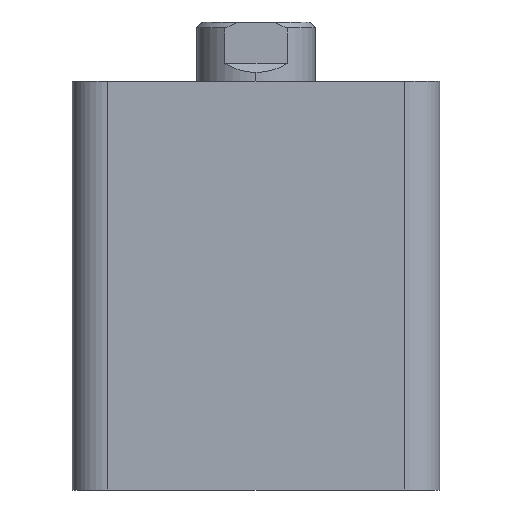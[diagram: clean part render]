
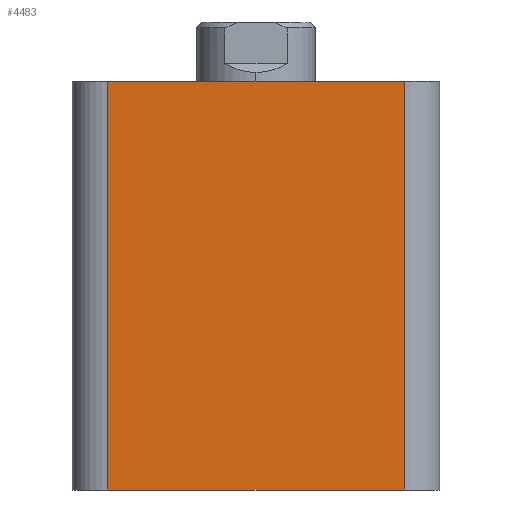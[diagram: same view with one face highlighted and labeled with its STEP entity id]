
A CAD part, left-side view. The second image highlights one B-rep face of the part: STEP entity #4483.
In plain terms, the highlighted planar face has unit normal (-1, 0, 0).
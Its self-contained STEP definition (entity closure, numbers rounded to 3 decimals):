
#230 = DIRECTION ( 'NONE',  ( 0., -1., 0. ) ) ;
#234 = CARTESIAN_POINT ( 'NONE',  ( -31., 31., 0. ) ) ;
#283 = DIRECTION ( 'NONE',  ( 0., -1., 0. ) ) ;
#293 = CARTESIAN_POINT ( 'NONE',  ( -31., 31., 69. ) ) ;
#624 = CARTESIAN_POINT ( 'NONE',  ( -31., -25., 0. ) ) ;
#625 = CARTESIAN_POINT ( 'NONE',  ( -31., 25., 0. ) ) ;
#938 = FACE_OUTER_BOUND ( 'NONE', #3267, .T. ) ;
#1412 = AXIS2_PLACEMENT_3D ( 'NONE', #4213, #4219, #4220 ) ;
#1588 = CARTESIAN_POINT ( 'NONE',  ( -31., 25., 69. ) ) ;
#1590 = CARTESIAN_POINT ( 'NONE',  ( -31., -25., 69. ) ) ;
#2122 = VECTOR ( 'NONE', #283, 1000. ) ;
#2252 = LINE ( 'NONE', #293, #2122 ) ;
#2559 = CARTESIAN_POINT ( 'NONE',  ( -31., -25., 69. ) ) ;
#2560 = DIRECTION ( 'NONE',  ( 0., 0., 1. ) ) ;
#2561 = DIRECTION ( 'NONE',  ( 0., 0., -1. ) ) ;
#2562 = CARTESIAN_POINT ( 'NONE',  ( -31., 25., 69. ) ) ;
#2605 = EDGE_CURVE ( 'NONE', #3488, #3369, #4603, .T. ) ;
#2608 = EDGE_CURVE ( 'NONE', #3368, #3490, #4607, .T. ) ;
#2931 = EDGE_CURVE ( 'NONE', #3369, #3368, #3060, .T. ) ;
#2950 = EDGE_CURVE ( 'NONE', #3488, #3490, #2252, .T. ) ;
#3059 = VECTOR ( 'NONE', #230, 1000. ) ;
#3060 = LINE ( 'NONE', #234, #3059 ) ;
#3267 = EDGE_LOOP ( 'NONE', ( #5004, #4993, #4994, #5003 ) ) ;
#3368 = VERTEX_POINT ( 'NONE', #624 ) ;
#3369 = VERTEX_POINT ( 'NONE', #625 ) ;
#3488 = VERTEX_POINT ( 'NONE', #1588 ) ;
#3490 = VERTEX_POINT ( 'NONE', #1590 ) ;
#4213 = CARTESIAN_POINT ( 'NONE',  ( -31., 31., 69. ) ) ;
#4217 = PLANE ( 'NONE',  #1412 ) ;
#4219 = DIRECTION ( 'NONE',  ( 1., 0., 0. ) ) ;
#4220 = DIRECTION ( 'NONE',  ( 0., 0., -1. ) ) ;
#4483 = ADVANCED_FACE ( 'NONE', ( #938 ), #4217, .F. ) ;
#4600 = VECTOR ( 'NONE', #2560, 1000. ) ;
#4603 = LINE ( 'NONE', #2562, #4605 ) ;
#4605 = VECTOR ( 'NONE', #2561, 1000. ) ;
#4607 = LINE ( 'NONE', #2559, #4600 ) ;
#4993 = ORIENTED_EDGE ( 'NONE', *, *, #2608, .T. ) ;
#4994 = ORIENTED_EDGE ( 'NONE', *, *, #2950, .F. ) ;
#5003 = ORIENTED_EDGE ( 'NONE', *, *, #2605, .T. ) ;
#5004 = ORIENTED_EDGE ( 'NONE', *, *, #2931, .T. ) ;
